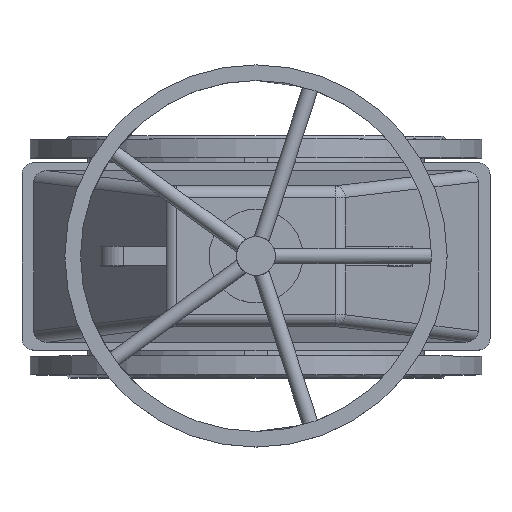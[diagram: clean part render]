
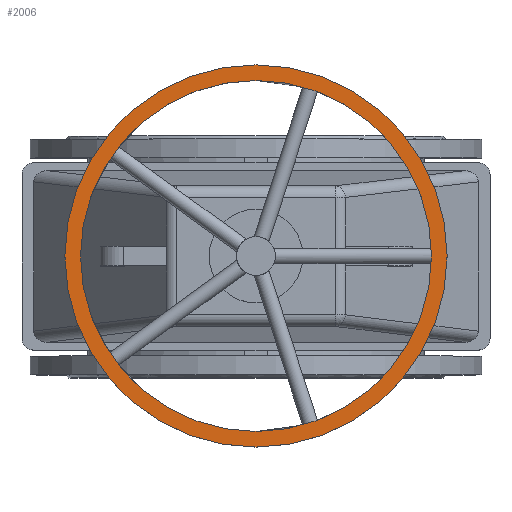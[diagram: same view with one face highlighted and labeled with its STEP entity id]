
A CAD part, top view. The second image highlights one B-rep face of the part: STEP entity #2006.
In plain terms, the highlighted planar face has unit normal (0, 0, 1).
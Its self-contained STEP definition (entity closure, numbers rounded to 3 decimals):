
#2006=ADVANCED_FACE('',(#4234,#4236),#4238,.T.);
#4234=FACE_BOUND('',#4235,.T.);
#4235=EDGE_LOOP('',(#6919));
#4236=FACE_BOUND('',#4237,.T.);
#4237=EDGE_LOOP('',(#6920));
#4238=PLANE('',#4239);
#4239=AXIS2_PLACEMENT_3D('',#4240,#4241,#4242);
#4240=CARTESIAN_POINT('',(0.,0.,850.));
#4241=DIRECTION('',(0.,0.,1.));
#4242=DIRECTION('',(0.,-1.,0.));
#6919=ORIENTED_EDGE('',*,*,#7943,.T.);
#6920=ORIENTED_EDGE('',*,*,#7941,.T.);
#7941=EDGE_CURVE('',#9325,#9325,#9326,.F.);
#7943=EDGE_CURVE('',#9329,#9329,#9330,.T.);
#9325=VERTEX_POINT('',#15291);
#9326=CIRCLE('',#15292,225.);
#9329=VERTEX_POINT('',#15301);
#9330=CIRCLE('',#15302,245.);
#15291=CARTESIAN_POINT('',(0.,-225.,850.));
#15292=AXIS2_PLACEMENT_3D('',#15293,#15294,#15295);
#15293=CARTESIAN_POINT('',(0.,0.,850.));
#15294=DIRECTION('',(0.,0.,1.));
#15295=DIRECTION('',(0.,-1.,0.));
#15301=CARTESIAN_POINT('',(0.,-245.,850.));
#15302=AXIS2_PLACEMENT_3D('',#15303,#15304,#15305);
#15303=CARTESIAN_POINT('',(0.,0.,850.));
#15304=DIRECTION('',(0.,0.,1.));
#15305=DIRECTION('',(0.,-1.,0.));
